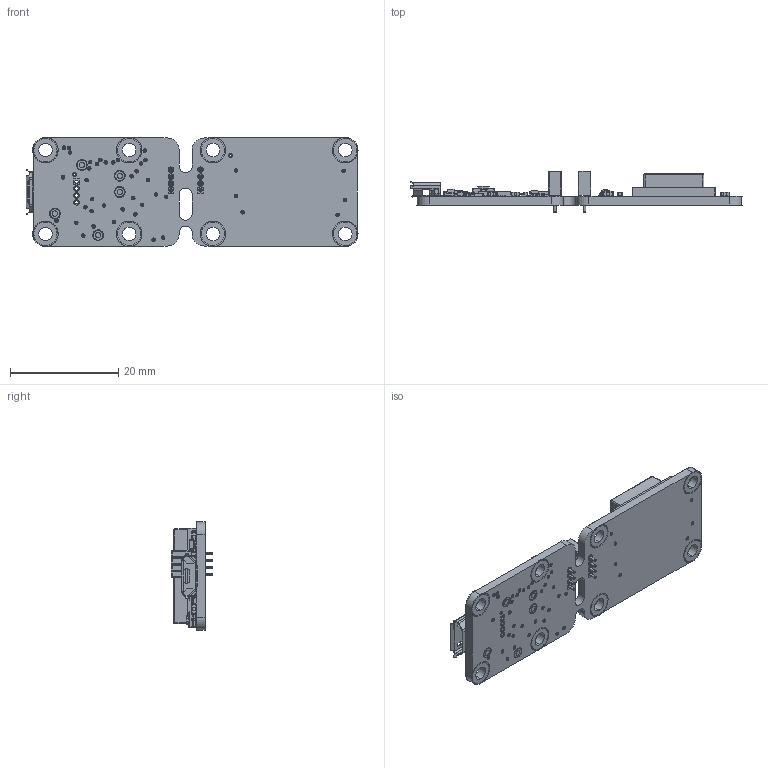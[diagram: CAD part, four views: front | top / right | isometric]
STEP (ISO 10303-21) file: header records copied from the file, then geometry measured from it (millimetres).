
FILE_DESCRIPTION (( 'STEP AP214' ), '1' );
FILE_NAME ('yoctovocV2.STEP', '2017-10-31T10:38:31', ( 'martinm' ), ( '' ), 'SwSTEP 2.0', 'SolidWorks 2008', '' );
FILE_SCHEMA (( 'AUTOMOTIVE_DESIGN' ));
Length unit declared in the file: millimetre
Products named in the file (27): PCB; C2; C9; C16; C17; C18; C19; FLASH1; P5; PVSS; R1; R2; R3; R4; R7; R12; R18; R20; REG2; SW1; Sensor1; T1; U1; USB1; YLED; sens1; yoctovocV2
Assembly tree (36 placements, depth 2):
  PVSS
  yoctovocV2
    C9  x6
    T1
    P5  x2
    R7  x2
    sens1
    C18  x2
    C2
    R3
    USB1
    REG2  x2
    R20  x2
    U1
    R2
    YLED
    PCB
    C16
    C17
    Sensor1
    R1
    R4
    C19  x2
    SW1
    R12
    FLASH1
    R18
Bounding box: 61.45 x 7.6 x 20.2 mm (x, y, z)
Volume: 2964.7 mm3; surface area: 4556.1 mm2
Topology: 48 solids, 48 shells, 5433 faces, 13978 edges, 9042 vertices
Faces by surface type: plane 3417, cylinder 1277, bspline 608, sphere 108, torus 23
Entity records: 220391 total; most frequent: CARTESIAN_POINT 59242, ORIENTED_EDGE 24484, DIRECTION 21775, EDGE_CURVE 12242, VECTOR 8783, LINE 8783, VERTEX_POINT 8048, AXIS2_PLACEMENT_3D 6496
